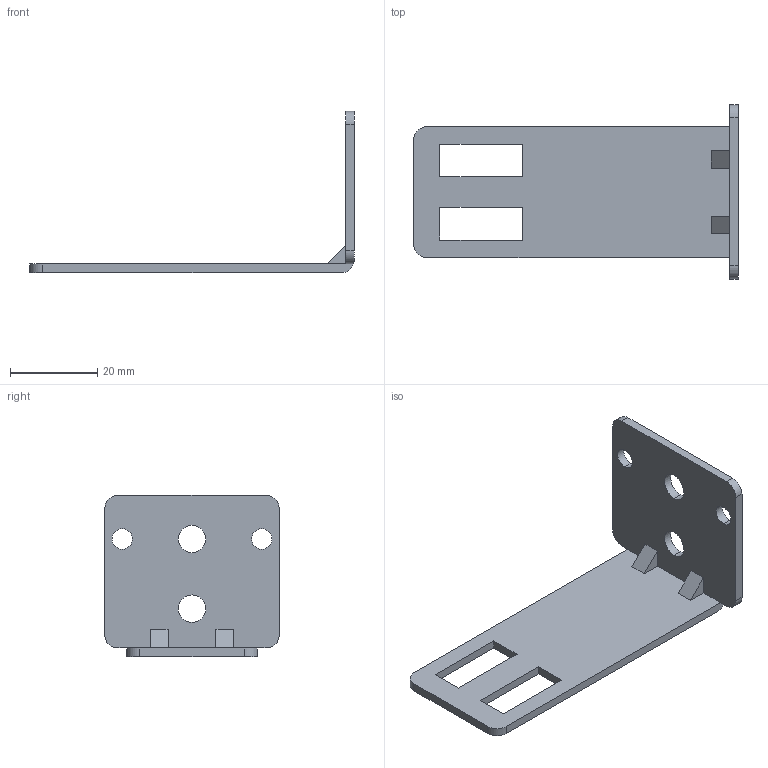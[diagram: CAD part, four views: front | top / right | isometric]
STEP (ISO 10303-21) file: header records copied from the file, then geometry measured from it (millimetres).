
FILE_DESCRIPTION (( 'STEP AP214' ), '1' );
FILE_NAME ('IMOS_XP_Befestigungswinkel.STEP', '2010-10-07T05:16:21', ( 'Grass' ), ( '' ), 'SwSTEP 2.0', 'SolidWorks 2010', '' );
FILE_SCHEMA (( 'AUTOMOTIVE_DESIGN' ));
Length unit declared in the file: millimetre
Products named in the file (1): IMOS_XP_Befestigungswinkel
Bounding box: 74.5 x 40 x 37 mm (x, y, z)
Volume: 6496.4 mm3; surface area: 7456.1 mm2
Topology: 2 solids, 2 shells, 43 faces, 115 edges, 76 vertices
Faces by surface type: plane 28, cylinder 15
Entity records: 1424 total; most frequent: CARTESIAN_POINT 253, DIRECTION 231, ORIENTED_EDGE 230, EDGE_CURVE 115, LINE 83, VECTOR 83, VERTEX_POINT 76, AXIS2_PLACEMENT_3D 74
